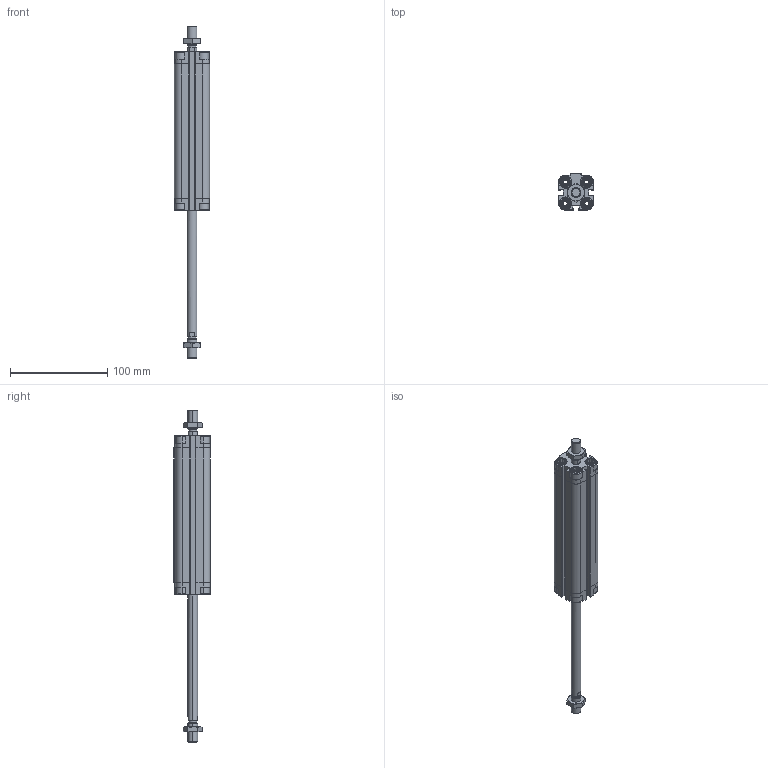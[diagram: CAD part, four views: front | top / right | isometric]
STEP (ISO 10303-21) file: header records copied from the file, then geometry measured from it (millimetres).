
FILE_DESCRIPTION (( 'STEP AP203' ), '1' );
FILE_NAME ('CDVU20-125M-P.STEP', '2020-07-21T15:09:50', ( '' ), ( '' ), 'SwSTEP 2.0', 'SolidWorks 2019', '' );
FILE_SCHEMA (( 'CONFIG_CONTROL_DESIGN' ));
Length unit declared in the file: millimetre
Products named in the file (1): CDVU20-125M-P
Bounding box: 36 x 37.5 x 341 mm (x, y, z)
Volume: 146622.1 mm3; surface area: 71023 mm2
Topology: 4 solids, 4 shells, 642 faces, 1674 edges, 1078 vertices
Faces by surface type: plane 374, cylinder 188, cone 64, torus 16
Entity records: 20369 total; most frequent: CARTESIAN_POINT 4535, ORIENTED_EDGE 3340, DIRECTION 3212, EDGE_CURVE 1670, AXIS2_PLACEMENT_3D 1115, VERTEX_POINT 1078, LINE 982, VECTOR 982
